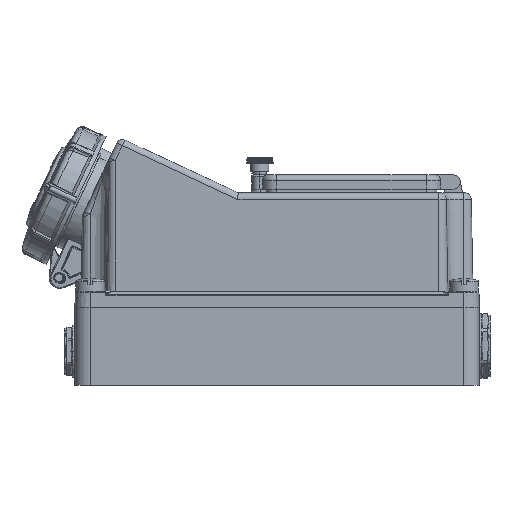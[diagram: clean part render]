
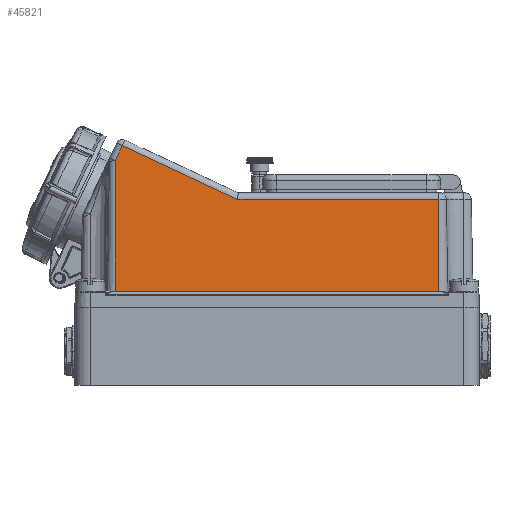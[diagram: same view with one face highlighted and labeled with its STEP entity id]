
A CAD part, front view. The second image highlights one B-rep face of the part: STEP entity #45821.
In plain terms, the highlighted planar face has unit normal (0, -1, 0.018).
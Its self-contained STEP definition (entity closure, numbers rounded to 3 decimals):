
#2692=DIRECTION('',(-1.,0.,0.));
#2693=VECTOR('',#2692,112.311);
#2694=CARTESIAN_POINT('',(90.,-54.606,103.711));
#2695=LINE('1583',#2694,#2693);
#2736=DIRECTION('',(0.,0.017,1.));
#2737=VECTOR('',#2736,51.219);
#2738=CARTESIAN_POINT('',(90.,-55.5,52.5));
#2739=LINE('1597',#2738,#2737);
#2743=DIRECTION('',(1.,0.,0.));
#2744=VECTOR('',#2743,180.);
#2745=CARTESIAN_POINT('',(-90.,-55.5,52.5));
#2746=LINE('1555',#2745,#2744);
#2750=DIRECTION('',(0.,-0.017,-1.));
#2751=VECTOR('',#2750,72.736);
#2752=CARTESIAN_POINT('',(-90.,-54.231,
125.225));
#2753=LINE('1998',#2752,#2751);
#11146=DIRECTION('',(-0.906,0.007,0.423));
#11147=VECTOR('',#11146,70.441);
#11148=CARTESIAN_POINT('',(-22.311,-54.606,
103.711));
#11149=LINE('1585',#11148,#11147);
#11168=DIRECTION('',(-0.423,-0.016,-0.906));
#11169=VECTOR('',#11168,9.11);
#11170=CARTESIAN_POINT('',(-86.151,-54.086,
133.48));
#11171=LINE('1977',#11170,#11169);
#38437=CARTESIAN_POINT('',(-90.,-55.5,52.5));
#38438=CARTESIAN_POINT('',(90.,-55.5,52.5));
#38439=VERTEX_POINT('',#38437);
#38440=VERTEX_POINT('',#38438);
#38485=CARTESIAN_POINT('',(90.,-54.606,103.711));
#38486=VERTEX_POINT('',#38485);
#38489=CARTESIAN_POINT('',(-22.311,-54.606,
103.711));
#38490=VERTEX_POINT('',#38489);
#38493=CARTESIAN_POINT('',(-86.151,-54.086,
133.48));
#38494=VERTEX_POINT('',#38493);
#38939=CARTESIAN_POINT('',(-90.,-54.231,
125.225));
#38940=VERTEX_POINT('',#38939);
#45805=CARTESIAN_POINT('',(-91.2,-55.5,52.5));
#45806=DIRECTION('',(0.,-1.,0.017));
#45807=DIRECTION('',(1.,0.,0.));
#45808=AXIS2_PLACEMENT_3D('',#45805,#45806,#45807);
#45809=PLANE('82',#45808);
#45810=ORIENTED_EDGE('1583',*,*,#45783,.F.);
#45811=ORIENTED_EDGE('1597',*,*,#45722,.F.);
#45812=ORIENTED_EDGE('1555',*,*,#45310,.F.);
#45814=ORIENTED_EDGE('1998',*,*,#45813,.F.);
#45816=ORIENTED_EDGE('1977',*,*,#45815,.F.);
#45818=ORIENTED_EDGE('1585',*,*,#45817,.F.);
#45819=EDGE_LOOP('82',(#45810,#45811,#45812,#45814,#45816,#45818));
#45820=FACE_OUTER_BOUND('82',#45819,.F.);
#45310=EDGE_CURVE('1555',#38439,#38440,#2746,.T.);
#45722=EDGE_CURVE('1597',#38440,#38486,#2739,.T.);
#45783=EDGE_CURVE('1583',#38486,#38490,#2695,.T.);
#45813=EDGE_CURVE('1998',#38940,#38439,#2753,.T.);
#45815=EDGE_CURVE('1977',#38494,#38940,#11171,.T.);
#45817=EDGE_CURVE('1585',#38490,#38494,#11149,.T.);
#45821=ADVANCED_FACE('82',(#45820),#45809,.T.);
